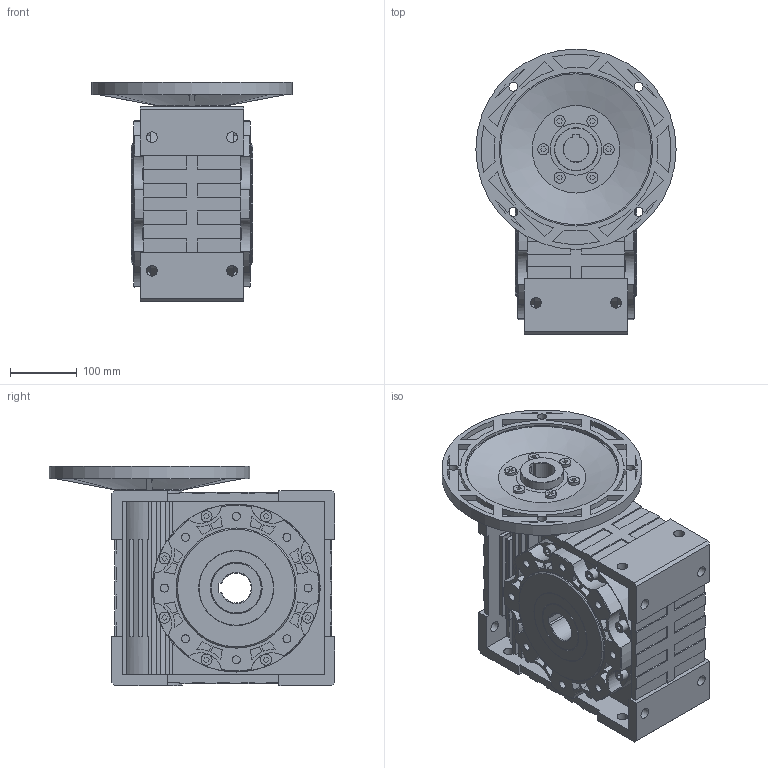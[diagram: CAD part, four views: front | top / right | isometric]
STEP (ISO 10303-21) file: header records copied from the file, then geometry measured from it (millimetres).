
FILE_DESCRIPTION(/* description */ (''),/* implementation_level */ '2;1');
FILE_NAME(/* name */ 'Z:\동력 3D 파일\PCMRV130_132B5_3D.stp',/* time_stamp */ '2021-12-01T17:39:24+09:00',/* author */ ('jaebok'),/* organization */ (''),/* preprocessor_version */ 'ST-DEVELOPER v18.1',/* originating_system */ 'Autodesk Inventor 2022',/* authorisation */ '');
FILE_SCHEMA (('AUTOMOTIVE_DESIGN { 1 0 10303 214 3 1 1 }'));
Length unit declared in the file: millimetre
Products named in the file (1): 부품61
Bounding box: 300 x 427.5 x 328 mm (x, y, z)
Volume: 14098439.1 mm3; surface area: 875656.9 mm2
Topology: 1 solids, 2 shells, 944 faces, 2413 edges, 1601 vertices
Faces by surface type: plane 632, cylinder 279, cone 33
Full cylindrical faces by diameter (mm): 12 x16, 13.5 x4, 16 x16, 16.5 x16, 16.631 x6, 64.6 x1, 76.5 x2, 77.52 x1, 89.75 x2, 91.75 x2, 103.5 x1, 112.5 x2, 180 x2, 230 x1, 251.6 x2, 300 x1
Entity records: 29899 total; most frequent: CARTESIAN_POINT 5395, DIRECTION 4827, ORIENTED_EDGE 4826, EDGE_CURVE 2413, LINE 1729, VECTOR 1729, VERTEX_POINT 1601, AXIS2_PLACEMENT_3D 1549
